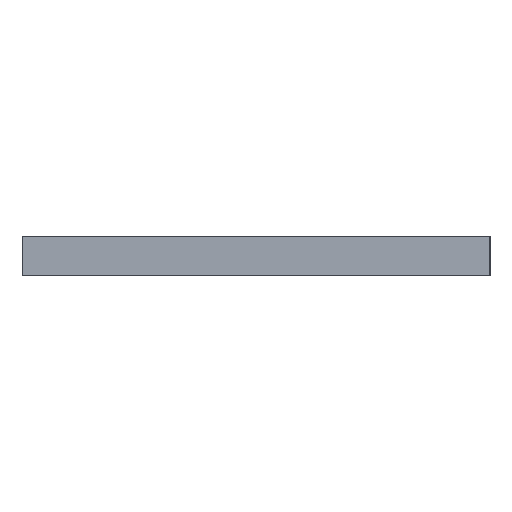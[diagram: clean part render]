
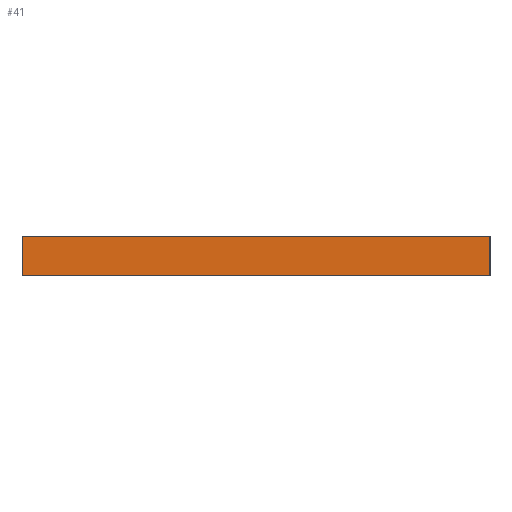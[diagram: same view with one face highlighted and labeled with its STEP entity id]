
A CAD part, left-side view. The second image highlights one B-rep face of the part: STEP entity #41.
In plain terms, the highlighted planar face has unit normal (-1, 0, 0).
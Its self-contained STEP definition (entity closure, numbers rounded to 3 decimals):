
#41=ADVANCED_FACE('',(#53),#357,.T.);
#53=FACE_OUTER_BOUND('',#65,.T.);
#65=EDGE_LOOP('',(#95,#96,#97,#98));
#95=ORIENTED_EDGE('',*,*,#251,.T.);
#96=ORIENTED_EDGE('',*,*,#252,.T.);
#97=ORIENTED_EDGE('',*,*,#253,.T.);
#98=ORIENTED_EDGE('',*,*,#254,.T.);
#143=PCURVE('',#357,#191);
#144=PCURVE('',#357,#192);
#145=PCURVE('',#357,#193);
#146=PCURVE('',#357,#194);
#150=PCURVE('',#358,#198);
#156=PCURVE('',#360,#204);
#162=PCURVE('',#361,#210);
#163=PCURVE('',#362,#211);
#191=DEFINITIONAL_REPRESENTATION('',(#300),#586);
#192=DEFINITIONAL_REPRESENTATION('',(#302),#586);
#193=DEFINITIONAL_REPRESENTATION('',(#304),#586);
#194=DEFINITIONAL_REPRESENTATION('',(#306),#586);
#198=DEFINITIONAL_REPRESENTATION('',(#313),#586);
#204=DEFINITIONAL_REPRESENTATION('',(#323),#586);
#210=DEFINITIONAL_REPRESENTATION('',(#330),#586);
#211=DEFINITIONAL_REPRESENTATION('',(#331),#586);
#227=SURFACE_CURVE('',#299,(#143,#162),.PCURVE_S1.);
#228=SURFACE_CURVE('',#301,(#144,#150),.PCURVE_S1.);
#229=SURFACE_CURVE('',#303,(#145,#163),.PCURVE_S1.);
#230=SURFACE_CURVE('',#305,(#146,#156),.PCURVE_S1.);
#251=EDGE_CURVE('',#343,#344,#227,.T.);
#252=EDGE_CURVE('',#344,#345,#228,.T.);
#253=EDGE_CURVE('',#345,#346,#229,.T.);
#254=EDGE_CURVE('',#346,#343,#230,.T.);
#299=B_SPLINE_CURVE_WITH_KNOTS('',1,(#513,#514),.UNSPECIFIED.,.F.,.F.,(2,
2),(-200.,-150.),.UNSPECIFIED.);
#300=B_SPLINE_CURVE_WITH_KNOTS('',1,(#515,#516),.UNSPECIFIED.,.F.,.F.,(2,
2),(-200.,-150.),.UNSPECIFIED.);
#301=B_SPLINE_CURVE_WITH_KNOTS('',1,(#517,#518),.UNSPECIFIED.,.F.,.F.,(2,
2),(0.,400.),.UNSPECIFIED.);
#302=B_SPLINE_CURVE_WITH_KNOTS('',1,(#519,#520),.UNSPECIFIED.,.F.,.F.,(2,
2),(0.,400.),.UNSPECIFIED.);
#303=B_SPLINE_CURVE_WITH_KNOTS('',1,(#521,#522),.UNSPECIFIED.,.F.,.F.,(2,
2),(150.,200.),.UNSPECIFIED.);
#304=B_SPLINE_CURVE_WITH_KNOTS('',1,(#523,#524),.UNSPECIFIED.,.F.,.F.,(2,
2),(150.,200.),.UNSPECIFIED.);
#305=B_SPLINE_CURVE_WITH_KNOTS('',1,(#525,#526),.UNSPECIFIED.,.F.,.F.,(2,
2),(-400.,0.),.UNSPECIFIED.);
#306=B_SPLINE_CURVE_WITH_KNOTS('',1,(#527,#528),.UNSPECIFIED.,.F.,.F.,(2,
2),(-400.,0.),.UNSPECIFIED.);
#313=B_SPLINE_CURVE_WITH_KNOTS('',1,(#541,#542),.UNSPECIFIED.,.F.,.F.,(2,
2),(0.,400.),.UNSPECIFIED.);
#323=B_SPLINE_CURVE_WITH_KNOTS('',1,(#561,#562),.UNSPECIFIED.,.F.,.F.,(2,
2),(-400.,0.),.UNSPECIFIED.);
#330=B_SPLINE_CURVE_WITH_KNOTS('',1,(#575,#576),.UNSPECIFIED.,.F.,.F.,(2,
2),(-200.,-150.),.UNSPECIFIED.);
#331=B_SPLINE_CURVE_WITH_KNOTS('',1,(#577,#578),.UNSPECIFIED.,.F.,.F.,(2,
2),(150.,200.),.UNSPECIFIED.);
#343=VERTEX_POINT('',#505);
#344=VERTEX_POINT('',#506);
#345=VERTEX_POINT('',#507);
#346=VERTEX_POINT('',#508);
#357=PLANE('',#389);
#358=PLANE('',#390);
#360=PLANE('',#392);
#361=PLANE('',#393);
#362=PLANE('',#394);
#389=AXIS2_PLACEMENT_3D('',#499,#404,$);
#390=AXIS2_PLACEMENT_3D('',#500,#405,$);
#392=AXIS2_PLACEMENT_3D('',#502,#407,$);
#393=AXIS2_PLACEMENT_3D('',#503,#408,$);
#394=AXIS2_PLACEMENT_3D('',#504,#409,$);
#404=DIRECTION('',(-1.,0.,0.));
#405=DIRECTION('',(0.,0.,1.));
#407=DIRECTION('',(0.,0.,-1.));
#408=DIRECTION('',(0.,-1.,0.));
#409=DIRECTION('',(0.,1.,0.));
#499=CARTESIAN_POINT('',(-850.,-585.,-40.));
#500=CARTESIAN_POINT('',(-850.,-585.,40.));
#502=CARTESIAN_POINT('',(-810.,-585.,-40.));
#503=CARTESIAN_POINT('',(-810.,-585.,-40.));
#504=CARTESIAN_POINT('',(-810.,355.,-40.));
#505=CARTESIAN_POINT('',(-850.,-585.,-40.));
#506=CARTESIAN_POINT('',(-850.,-585.,40.));
#507=CARTESIAN_POINT('',(-850.,355.,40.));
#508=CARTESIAN_POINT('',(-850.,355.,-40.));
#513=CARTESIAN_POINT('',(-850.,-585.,-40.));
#514=CARTESIAN_POINT('',(-850.,-585.,40.));
#515=CARTESIAN_POINT('',(-200.,0.));
#516=CARTESIAN_POINT('',(-150.,0.));
#517=CARTESIAN_POINT('',(-850.,-585.,40.));
#518=CARTESIAN_POINT('',(-850.,355.,40.));
#519=CARTESIAN_POINT('',(-150.,0.));
#520=CARTESIAN_POINT('',(-150.,400.));
#521=CARTESIAN_POINT('',(-850.,355.,40.));
#522=CARTESIAN_POINT('',(-850.,355.,-40.));
#523=CARTESIAN_POINT('',(-150.,400.));
#524=CARTESIAN_POINT('',(-200.,400.));
#525=CARTESIAN_POINT('',(-850.,355.,-40.));
#526=CARTESIAN_POINT('',(-850.,-585.,-40.));
#527=CARTESIAN_POINT('',(-200.,400.));
#528=CARTESIAN_POINT('',(-200.,0.));
#541=CARTESIAN_POINT('',(-150.,0.));
#542=CARTESIAN_POINT('',(-150.,400.));
#561=CARTESIAN_POINT('',(0.,400.));
#562=CARTESIAN_POINT('',(0.,0.));
#575=CARTESIAN_POINT('',(0.,0.));
#576=CARTESIAN_POINT('',(40.,0.));
#577=CARTESIAN_POINT('',(0.,40.));
#578=CARTESIAN_POINT('',(0.,0.));
#586=(
GEOMETRIC_REPRESENTATION_CONTEXT(2)
PARAMETRIC_REPRESENTATION_CONTEXT()
REPRESENTATION_CONTEXT('pspace','')
);
